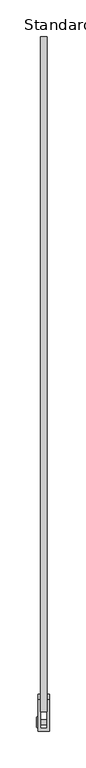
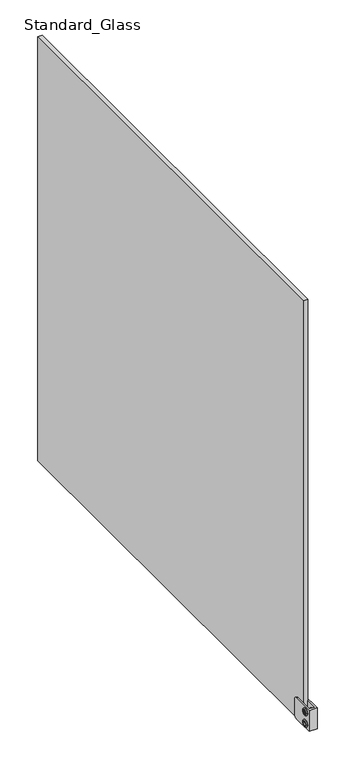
"""IFC4 building model written with IfcOpenShell, lengths in millimetres: railing geometry, Baluster-Excess-Fill-Straight-Panel-VIVA : Standard_Glass."""

from ifc_helpers import new_model, si_unit, point, frame, origin, place, context, project, spatial, polyline, circle_curve, ellipse_curve, trimmed, outline, extrude, source, transform, mapped, element, save
from ifc_brep_helpers import plane_surface, cylinder_surface, revolved_surface, advanced_brep


def standard_glass_4165e235(model_context):
    return source(origin(), model_context, "Body", "SolidModel", [
        advanced_brep(
        [(36.7665, -943.877713, 138.7358896), (24.0665, -943.877713, 138.7358896), (24.0665, -936.7868212, 138.7358896), (36.7665, -936.7868212, 138.7358896), (24.0665, -947.7400562, 138.7358896), (24.0665, -932.924478, 138.7358896), (23.199388, -941.9883425, 138.7358896), (36.7665, -941.9883425, 138.7358896), (36.7665, -938.6761917, 138.7358896), (23.199388, -938.6761917, 138.7358896), (23.2316551, -947.7400562, 138.7358896), (21.9503831, -946.4587842, 138.7358896), (21.9503831, -934.2057501, 138.7358896), (23.2316551, -932.924478, 138.7358896), (21.9503831, -944.6308627, 138.7358896), (21.9503831, -936.0336716, 138.7358896), (23.199388, -944.6308627, 138.7358896), (23.199388, -936.0336716, 138.7358896)],
        [
            (0, 1),
            (1, 2, circle_curve(frame((24.0665, -940.3322671, 138.7358896), z_axis=(1.0, 0.0, 0.0), x_axis=(0.0, 1.0, 0.0)), 3.5454459)),
            (2, 3),
            (3, 0, circle_curve(frame((36.7665, -940.3322671, 138.7358896), z_axis=(-1.0, 0.0, 0.0), x_axis=(0.0, 1.0, 0.0)), 3.5454459)),
            (2, 1, circle_curve(frame((24.0665, -940.3322671, 138.7358896), z_axis=(1.0, 0.0, 0.0), x_axis=(0.0, 1.0, 0.0)), 3.5454459)),
            (0, 3, circle_curve(frame((36.7665, -940.3322671, 138.7358896), z_axis=(-1.0, 0.0, 0.0), x_axis=(0.0, 1.0, 0.0)), 3.5454459)),
            (1, 4),
            (4, 5, circle_curve(frame((24.0665, -940.3322671, 138.7358896), z_axis=(1.0, 0.0, 0.0), x_axis=(0.0, 1.0, 0.0)), 7.4077891)),
            (5, 2),
            (5, 4, circle_curve(frame((24.0665, -940.3322671, 138.7358896), z_axis=(1.0, 0.0, 0.0), x_axis=(0.0, 1.0, 0.0)), 7.4077891)),
            (6, 7),
            (7, 8, circle_curve(frame((36.7665, -940.3322671, 138.7358896), z_axis=(1.0, 0.0, 0.0), x_axis=(0.0, 1.0, 0.0)), 1.6560754)),
            (8, 9),
            (9, 6, circle_curve(frame((23.199388, -940.3322671, 138.7358896), z_axis=(-1.0, 0.0, 0.0), x_axis=(0.0, 1.0, 0.0)), 1.6560754)),
            (8, 7, circle_curve(frame((36.7665, -940.3322671, 138.7358896), z_axis=(1.0, 0.0, 0.0), x_axis=(0.0, 1.0, 0.0)), 1.6560754)),
            (6, 9, circle_curve(frame((23.199388, -940.3322671, 138.7358896), z_axis=(-1.0, 0.0, 0.0), x_axis=(0.0, 1.0, 0.0)), 1.6560754)),
            (10, 11, circle_curve(frame((23.2316551, -946.4587842, 138.7358896), z_axis=(0.0, 0.0, -1.0), x_axis=(0.0, -1.0, 0.0)), 1.281272)),
            (11, 12, circle_curve(frame((21.9503831, -940.3322671, 138.7358896), z_axis=(1.0, 0.0, 0.0), x_axis=(0.0, 1.0, 0.0)), 6.1265171)),
            (12, 13, circle_curve(frame((23.2316551, -934.2057501, 138.7358896), z_axis=(0.0, 0.0, -1.0), x_axis=(0.0, 1.0, 0.0)), 1.281272)),
            (13, 10, circle_curve(frame((23.2316551, -940.3322671, 138.7358896), z_axis=(-1.0, 0.0, 0.0), x_axis=(0.0, 1.0, 0.0)), 7.4077891)),
            (12, 11, circle_curve(frame((21.9503831, -940.3322671, 138.7358896), z_axis=(1.0, 0.0, 0.0), x_axis=(0.0, 1.0, 0.0)), 6.1265171)),
            (10, 13, circle_curve(frame((23.2316551, -940.3322671, 138.7358896), z_axis=(-1.0, 0.0, 0.0), x_axis=(0.0, 1.0, 0.0)), 7.4077891)),
            (11, 14),
            (14, 15, circle_curve(frame((21.9503831, -940.3322671, 138.7358896), z_axis=(1.0, 0.0, 0.0), x_axis=(0.0, 1.0, 0.0)), 4.2985955)),
            (15, 12),
            (15, 14, circle_curve(frame((21.9503831, -940.3322671, 138.7358896), z_axis=(1.0, 0.0, 0.0), x_axis=(0.0, 1.0, 0.0)), 4.2985955)),
            (4, 10),
            (13, 5),
            (7, 0),
            (3, 8),
            (14, 16),
            (16, 17, circle_curve(frame((23.199388, -940.3322671, 138.7358896), z_axis=(1.0, 0.0, 0.0), x_axis=(0.0, 1.0, 0.0)), 4.2985955)),
            (17, 15),
            (17, 16, circle_curve(frame((23.199388, -940.3322671, 138.7358896), z_axis=(1.0, 0.0, 0.0), x_axis=(0.0, 1.0, 0.0)), 4.2985955)),
            (16, 6),
            (9, 17),
        ],
        [
            cylinder_surface(frame((27.5632331, -940.3322671, 138.7358896), z_axis=(1.0, 0.0, 0.0), x_axis=(0.0, 1.0, 0.0)), 3.5454459),
            plane_surface(frame((24.0665, -940.3322671, 138.7358896), z_axis=(1.0, 0.0, 0.0), x_axis=(0.0, 1.0, 0.0))),
            revolved_surface(polyline([(36.7665, -938.6761917, 138.7358896), (23.199388, -938.6761917, 138.7358896)]), (27.5632331, -940.3322671, 138.7358896), (1.0, 0.0, 0.0)),
            revolved_surface(trimmed(ellipse_curve(frame((23.2316551, -934.2057501, 138.7358896), z_axis=(0.0, 0.0, -1.0), x_axis=(0.0, 1.0, 0.0)), 1.281272, 1.281272), [point((21.9503831, -934.2057501, 138.7358896))], [point((23.2316551, -932.924478, 138.7358896))], True, "CARTESIAN"), (27.5632331, -940.3322671, 138.7358896), (1.0, 0.0, 0.0)),
            plane_surface(frame((21.9503831, -940.3322671, 138.7358896), z_axis=(-1.0, 0.0, 0.0), x_axis=(0.0, 1.0, 0.0))),
            cylinder_surface(frame((27.5632331, -940.3322671, 138.7358896), z_axis=(1.0, 0.0, 0.0), x_axis=(0.0, 1.0, 0.0)), 7.4077891),
            plane_surface(frame((36.7665, -940.3322671, 138.7358896), z_axis=(1.0, 0.0, 0.0), x_axis=(0.0, 1.0, 0.0))),
            revolved_surface(polyline([(23.199388, -936.0336715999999, 138.7358896), (21.9503831, -936.0336715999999, 138.7358896)]), (27.5632331, -940.3322671, 138.7358896), (1.0, 0.0, 0.0)),
            plane_surface(frame((23.199388, -940.3322671, 138.7358896), z_axis=(-1.0, 0.0, 0.0), x_axis=(0.0, 1.0, 0.0))),
        ],
        [
            (0, [[1, 2, 3, 4]]),
            (0, [[-3, 5, -1, 6]]),
            (1, [[7, 8, 9, -2]]),
            (1, [[-9, 10, -7, -5]]),
            (2, [[11, 12, 13, 14]]),
            (2, [[-13, 15, -11, 16]]),
            (3, [[17, 18, 19, 20]]),
            (3, [[-19, 21, -17, 22]]),
            (4, [[23, 24, 25, -18]]),
            (4, [[-25, 26, -23, -21]]),
            (5, [[27, -20, 28, -8]]),
            (5, [[-28, -22, -27, -10]]),
            (6, [[29, -4, 30, -12]]),
            (6, [[-30, -6, -29, -15]]),
            (7, [[31, 32, 33, -24]]),
            (7, [[-33, 34, -31, -26]]),
            (8, [[35, -14, 36, -32]]),
            (8, [[-36, -16, -35, -34]]),
        ],
    ),
        advanced_brep(
        [(36.7665, -943.877713, 114.1296396), (24.0665, -943.877713, 114.1296396), (24.0665, -936.7868212, 114.1296396), (36.7665, -936.7868212, 114.1296396), (24.0665, -947.7400562, 114.1296396), (24.0665, -932.924478, 114.1296396), (23.199388, -941.9883425, 114.1296396), (36.7665, -941.9883425, 114.1296396), (36.7665, -938.6761917, 114.1296396), (23.199388, -938.6761917, 114.1296396), (23.2316551, -947.7400562, 114.1296396), (21.9503831, -946.4587842, 114.1296396), (21.9503831, -934.2057501, 114.1296396), (23.2316551, -932.924478, 114.1296396), (21.9503831, -944.6308627, 114.1296396), (21.9503831, -936.0336716, 114.1296396), (23.199388, -944.6308627, 114.1296396), (23.199388, -936.0336716, 114.1296396)],
        [
            (0, 1),
            (1, 2, circle_curve(frame((24.0665, -940.3322671, 114.1296396), z_axis=(1.0, 0.0, 0.0), x_axis=(0.0, 1.0, 0.0)), 3.5454459)),
            (2, 3),
            (3, 0, circle_curve(frame((36.7665, -940.3322671, 114.1296396), z_axis=(-1.0, 0.0, 0.0), x_axis=(0.0, 1.0, 0.0)), 3.5454459)),
            (2, 1, circle_curve(frame((24.0665, -940.3322671, 114.1296396), z_axis=(1.0, 0.0, 0.0), x_axis=(0.0, 1.0, 0.0)), 3.5454459)),
            (0, 3, circle_curve(frame((36.7665, -940.3322671, 114.1296396), z_axis=(-1.0, 0.0, 0.0), x_axis=(0.0, 1.0, 0.0)), 3.5454459)),
            (1, 4),
            (4, 5, circle_curve(frame((24.0665, -940.3322671, 114.1296396), z_axis=(1.0, 0.0, 0.0), x_axis=(0.0, 1.0, 0.0)), 7.4077891)),
            (5, 2),
            (5, 4, circle_curve(frame((24.0665, -940.3322671, 114.1296396), z_axis=(1.0, 0.0, 0.0), x_axis=(0.0, 1.0, 0.0)), 7.4077891)),
            (6, 7),
            (7, 8, circle_curve(frame((36.7665, -940.3322671, 114.1296396), z_axis=(1.0, 0.0, 0.0), x_axis=(0.0, 1.0, 0.0)), 1.6560754)),
            (8, 9),
            (9, 6, circle_curve(frame((23.199388, -940.3322671, 114.1296396), z_axis=(-1.0, 0.0, 0.0), x_axis=(0.0, 1.0, 0.0)), 1.6560754)),
            (8, 7, circle_curve(frame((36.7665, -940.3322671, 114.1296396), z_axis=(1.0, 0.0, 0.0), x_axis=(0.0, 1.0, 0.0)), 1.6560754)),
            (6, 9, circle_curve(frame((23.199388, -940.3322671, 114.1296396), z_axis=(-1.0, 0.0, 0.0), x_axis=(0.0, 1.0, 0.0)), 1.6560754)),
            (10, 11, circle_curve(frame((23.2316551, -946.4587842, 114.1296396), z_axis=(0.0, 0.0, -1.0), x_axis=(0.0, -1.0, 0.0)), 1.281272)),
            (11, 12, circle_curve(frame((21.9503831, -940.3322671, 114.1296396), z_axis=(1.0, 0.0, 0.0), x_axis=(0.0, 1.0, 0.0)), 6.1265171)),
            (12, 13, circle_curve(frame((23.2316551, -934.2057501, 114.1296396), z_axis=(0.0, 0.0, -1.0), x_axis=(0.0, 1.0, 0.0)), 1.281272)),
            (13, 10, circle_curve(frame((23.2316551, -940.3322671, 114.1296396), z_axis=(-1.0, 0.0, 0.0), x_axis=(0.0, 1.0, 0.0)), 7.4077891)),
            (12, 11, circle_curve(frame((21.9503831, -940.3322671, 114.1296396), z_axis=(1.0, 0.0, 0.0), x_axis=(0.0, 1.0, 0.0)), 6.1265171)),
            (10, 13, circle_curve(frame((23.2316551, -940.3322671, 114.1296396), z_axis=(-1.0, 0.0, 0.0), x_axis=(0.0, 1.0, 0.0)), 7.4077891)),
            (11, 14),
            (14, 15, circle_curve(frame((21.9503831, -940.3322671, 114.1296396), z_axis=(1.0, 0.0, 0.0), x_axis=(0.0, 1.0, 0.0)), 4.2985955)),
            (15, 12),
            (15, 14, circle_curve(frame((21.9503831, -940.3322671, 114.1296396), z_axis=(1.0, 0.0, 0.0), x_axis=(0.0, 1.0, 0.0)), 4.2985955)),
            (7, 0),
            (3, 8),
            (4, 10),
            (13, 5),
            (14, 16),
            (16, 17, circle_curve(frame((23.199388, -940.3322671, 114.1296396), z_axis=(1.0, 0.0, 0.0), x_axis=(0.0, 1.0, 0.0)), 4.2985955)),
            (17, 15),
            (17, 16, circle_curve(frame((23.199388, -940.3322671, 114.1296396), z_axis=(1.0, 0.0, 0.0), x_axis=(0.0, 1.0, 0.0)), 4.2985955)),
            (16, 6),
            (9, 17),
        ],
        [
            cylinder_surface(frame((27.5632331, -940.3322671, 114.1296396), z_axis=(1.0, 0.0, 0.0), x_axis=(0.0, 1.0, 0.0)), 3.5454459),
            plane_surface(frame((24.0665, -940.3322671, 114.1296396), z_axis=(1.0, 0.0, 0.0), x_axis=(0.0, 1.0, 0.0))),
            revolved_surface(polyline([(36.7665, -938.6761917, 114.1296396), (23.199388, -938.6761917, 114.1296396)]), (27.5632331, -940.3322671, 114.1296396), (1.0, 0.0, 0.0)),
            revolved_surface(trimmed(ellipse_curve(frame((23.2316551, -934.2057501, 114.1296396), z_axis=(0.0, 0.0, -1.0), x_axis=(0.0, 1.0, 0.0)), 1.281272, 1.281272), [point((21.9503831, -934.2057501, 114.1296396))], [point((23.2316551, -932.924478, 114.1296396))], True, "CARTESIAN"), (27.5632331, -940.3322671, 114.1296396), (1.0, 0.0, 0.0)),
            plane_surface(frame((21.9503831, -940.3322671, 114.1296396), z_axis=(-1.0, 0.0, 0.0), x_axis=(0.0, 1.0, 0.0))),
            plane_surface(frame((36.7665, -940.3322671, 114.1296396), z_axis=(1.0, 0.0, 0.0), x_axis=(0.0, 1.0, 0.0))),
            cylinder_surface(frame((27.5632331, -940.3322671, 114.1296396), z_axis=(1.0, 0.0, 0.0), x_axis=(0.0, 1.0, 0.0)), 7.4077891),
            revolved_surface(polyline([(23.199388, -936.0336715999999, 114.1296396), (21.9503831, -936.0336715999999, 114.1296396)]), (27.5632331, -940.3322671, 114.1296396), (1.0, 0.0, 0.0)),
            plane_surface(frame((23.199388, -940.3322671, 114.1296396), z_axis=(-1.0, 0.0, 0.0), x_axis=(0.0, 1.0, 0.0))),
        ],
        [
            (0, [[1, 2, 3, 4]]),
            (0, [[-3, 5, -1, 6]]),
            (1, [[7, 8, 9, -2]]),
            (1, [[-9, 10, -7, -5]]),
            (2, [[11, 12, 13, 14]]),
            (2, [[-13, 15, -11, 16]]),
            (3, [[17, 18, 19, 20]]),
            (3, [[-19, 21, -17, 22]]),
            (4, [[23, 24, 25, -18]]),
            (4, [[-25, 26, -23, -21]]),
            (5, [[27, -4, 28, -12]]),
            (5, [[-28, -6, -27, -15]]),
            (6, [[29, -20, 30, -8]]),
            (6, [[-30, -22, -29, -10]]),
            (7, [[31, 32, 33, -24]]),
            (7, [[-33, 34, -31, -26]]),
            (8, [[35, -14, 36, -32]]),
            (8, [[-36, -16, -35, -34]]),
        ],
    ),
        extrude(outline(polyline([(-944.4261954, 114.1296396), (-942.3792313, 117.6750855), (-938.285303, 117.6750855), (-936.2383388, 114.1296396), (-938.285303, 110.5841937), (-942.3792313, 110.5841937), (-944.4261954, 114.1296396)])), frame((21.7024185, 0.0, 0.0), z_axis=(1.0, 0.0, 0.0), x_axis=(0.0, 1.0, 0.0)), (0.0, 0.0, 1.0), 1.4969696),
        advanced_brep(
        [(24.0665, -952.9656119, 148.6577646), (24.0665, -908.5156119, 148.6577646), (24.0665, -902.1656119, 142.3077646), (24.0665, -902.1656119, 110.5577646), (24.0665, -908.5156119, 104.2077646), (24.0665, -952.9656119, 104.2077646), (39.9415, -952.9656119, 148.6577646), (39.9415, -952.9656119, 104.2077646), (39.9415, -908.5156119, 104.2077646), (39.9415, -902.1656119, 110.5577646), (39.9415, -902.1656119, 142.3077646), (39.9415, -908.5156119, 148.6577646), (27.2415, -908.5156119, 104.2077646), (27.2415, -948.2475315, 104.2077646), (36.7665, -948.2475315, 104.2077646), (36.7665, -908.5156119, 104.2077646), (27.2415, -948.2475315, 148.6577646), (36.7665, -948.2475315, 148.6577646), (27.2415, -902.1656119, 110.5577646), (27.2415, -902.1656119, 142.3077646), (27.2415, -908.5156119, 148.6577646), (36.7665, -908.5156119, 148.6577646), (36.7665, -902.1656119, 142.3077646), (36.7665, -902.1656119, 110.5577646)],
        [
            (0, 1),
            (1, 2, circle_curve(frame((24.0665, -908.5156119, 142.3077646), z_axis=(-1.0, 0.0, 0.0), x_axis=(0.0, 1.0, 0.0)), 6.35)),
            (2, 3),
            (3, 4, circle_curve(frame((24.0665, -908.5156119, 110.5577646), z_axis=(-1.0, 0.0, 0.0), x_axis=(0.0, 1.0, 0.0)), 6.35)),
            (4, 5),
            (5, 0),
            (6, 7),
            (7, 8),
            (8, 9, circle_curve(frame((39.9415, -908.5156119, 110.5577646), z_axis=(1.0, 0.0, 0.0), x_axis=(0.0, 1.0, 0.0)), 6.35)),
            (9, 10),
            (10, 11, circle_curve(frame((39.9415, -908.5156119, 142.3077646), z_axis=(1.0, 0.0, 0.0), x_axis=(0.0, 1.0, 0.0)), 6.35)),
            (11, 6),
            (5, 7),
            (6, 0),
            (4, 12),
            (12, 13),
            (13, 14),
            (14, 15),
            (15, 8),
            (13, 16),
            (16, 17),
            (17, 14),
            (12, 18, circle_curve(frame((27.2415, -908.5156119, 110.5577646), z_axis=(1.0, 0.0, 0.0), x_axis=(0.0, 1.0, 0.0)), 6.35)),
            (18, 19),
            (19, 20, circle_curve(frame((27.2415, -908.5156119, 142.3077646), z_axis=(1.0, 0.0, 0.0), x_axis=(0.0, 1.0, 0.0)), 6.35)),
            (20, 16),
            (17, 21),
            (21, 22, circle_curve(frame((36.7665, -908.5156119, 142.3077646), z_axis=(-1.0, 0.0, 0.0), x_axis=(0.0, 1.0, 0.0)), 6.35)),
            (22, 23),
            (23, 15, circle_curve(frame((36.7665, -908.5156119, 110.5577646), z_axis=(-1.0, 0.0, 0.0), x_axis=(0.0, 1.0, 0.0)), 6.35)),
            (23, 9),
            (3, 18),
            (22, 10),
            (2, 19),
            (21, 11),
            (1, 20),
        ],
        [
            plane_surface(frame((24.0665, -952.9656119, 104.2077646), z_axis=(-1.0, 0.0, 0.0), x_axis=(0.0, 0.0, -1.0))),
            plane_surface(frame((39.9415, -952.9656119, 104.2077646), z_axis=(1.0, 0.0, 0.0), x_axis=(0.0, 0.0, 1.0))),
            plane_surface(frame((24.0665, -952.9656119, 148.6577646), z_axis=(0.0, -1.0, 0.0), x_axis=(1.0, 0.0, 0.0))),
            plane_surface(frame((24.0665, -952.9656119, 104.2077646), z_axis=(0.0, 0.0, -1.0), x_axis=(1.0, 0.0, 0.0))),
            plane_surface(frame((36.7665, -948.2475315, 161.3577646), z_axis=(0.0, 1.0, 0.0), x_axis=(0.0, 0.0, -1.0))),
            plane_surface(frame((27.2415, -948.2475315, 161.3577646), z_axis=(1.0, 0.0, 0.0), x_axis=(0.0, 0.0, -1.0))),
            plane_surface(frame((36.7665, -889.4656119, 161.3577646), z_axis=(-1.0, 0.0, 0.0), x_axis=(0.0, 0.0, -1.0))),
            cylinder_surface(frame((39.9415, -908.5156119, 110.5577646), z_axis=(-1.0, 0.0, 0.0), x_axis=(0.0, 1.0, 0.0)), 6.35),
            plane_surface(frame((24.0665, -902.1656119, 110.5577646), z_axis=(0.0, 1.0, 0.0), x_axis=(1.0, 0.0, 0.0))),
            cylinder_surface(frame((39.9415, -908.5156119, 142.3077646), z_axis=(-1.0, 0.0, 0.0), x_axis=(0.0, 1.0, 0.0)), 6.35),
            plane_surface(frame((24.0665, -908.5156119, 148.6577646), z_axis=(0.0, 0.0, 1.0), x_axis=(1.0, 0.0, 0.0))),
        ],
        [
            (0, [[1, 2, 3, 4, 5, 6]]),
            (1, [[7, 8, 9, 10, 11, 12]]),
            (2, [[13, -7, 14, -6]]),
            (3, [[15, 16, 17, 18, 19, -8, -13, -5]]),
            (4, [[-17, 20, 21, 22]]),
            (5, [[-16, 23, 24, 25, 26, -20]]),
            (6, [[27, 28, 29, 30, -18, -22]]),
            (7, [[-19, -30, 31, -9]]),
            (7, [[32, -23, -15, -4]]),
            (8, [[-31, -29, 33, -10]]),
            (8, [[34, -24, -32, -3]]),
            (9, [[-33, -28, 35, -11]]),
            (9, [[36, -25, -34, -2]]),
            (10, [[-14, -12, -35, -27, -21, -26, -36, -1]]),
        ],
    ),
        extrude(outline(polyline([(36.7665, -1.0851207), (36.7665, -926.0225315), (27.2415, -926.0225315), (27.2415, -1.0851207), (36.7665, -1.0851207)])), frame((0.0, 0.0, 101.6), z_axis=(0.0, 0.0, 1.0), x_axis=(1.0, 0.0, 0.0)), (0.0, 0.0, 1.0), 901.7),
    ])


if __name__ == "__main__":
    model = new_model("IFC4")
    model_context = context("Model", 3, world=origin())
    ifc_project = project(units=[si_unit("LENGTHUNIT", "METRE", prefix="MILLI")], contexts=[model_context])
    site = spatial("IfcSite", under=ifc_project)
    building = spatial("IfcBuilding", under=site)
    placement = place(None, origin())
    standard_glass_shape = standard_glass_4165e235(model_context)
    element("IfcRailing", 1, ObjectType="Baluster-Excess-Fill-Straight-Panel-VIVA : Standard_Glass", at=placement, inside=building, context=model_context, shape_type="MappedRepresentation", body=[
        mapped(standard_glass_shape, transform((0.0, 0.0, 0.0), x_axis=(1.0, 0.0, 0.0), y_axis=(0.0, 1.0, 0.0), z_axis=(0.0, 0.0, 1.0))),
    ])
    save(model, "model.ifc")
